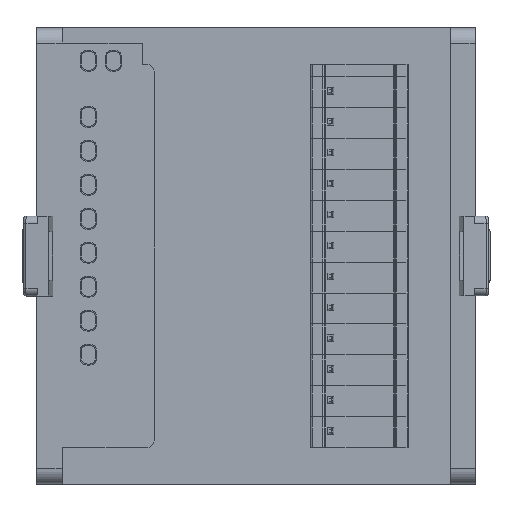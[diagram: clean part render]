
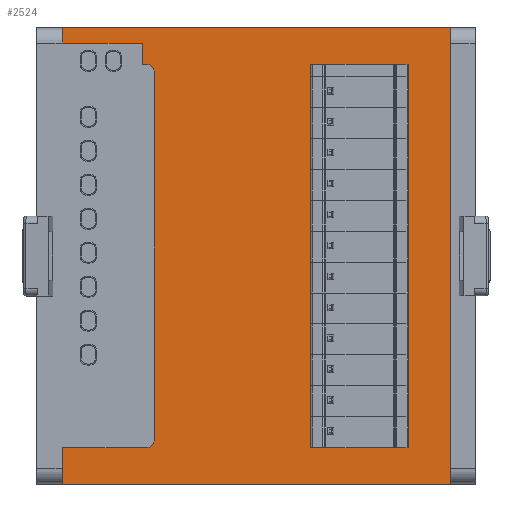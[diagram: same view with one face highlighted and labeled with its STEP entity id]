
A CAD part, front view. The second image highlights one B-rep face of the part: STEP entity #2524.
In plain terms, the highlighted planar face has unit normal (0, -1, 0).
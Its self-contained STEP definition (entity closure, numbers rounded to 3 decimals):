
#275=FACE_BOUND('',#5935,.T.);
#276=FACE_BOUND('',#5936,.T.);
#1042=PLANE('',#30170);
#2524=ADVANCED_FACE('',(#275,#276),#1042,.T.);
#5935=EDGE_LOOP('',(#13807,#13808,#13809,#13810,#13811,#13812,#13813,#13814,
#13815,#13816,#13817,#13818));
#5936=EDGE_LOOP('',(#13819,#13820,#13821,#13822,#13823,#13824,#13825,#13826));
#6907=CIRCLE('',#29942,1.);
#6949=CIRCLE('',#29986,1.);
#6998=CIRCLE('',#30130,1.);
#7000=CIRCLE('',#30133,1.);
#7002=CIRCLE('',#30137,1.);
#7004=CIRCLE('',#30140,1.);
#13807=ORIENTED_EDGE('',*,*,#21223,.T.);
#13808=ORIENTED_EDGE('',*,*,#21593,.F.);
#13809=ORIENTED_EDGE('',*,*,#21610,.F.);
#13810=ORIENTED_EDGE('',*,*,#21560,.T.);
#13811=ORIENTED_EDGE('',*,*,#21609,.F.);
#13812=ORIENTED_EDGE('',*,*,#21552,.T.);
#13813=ORIENTED_EDGE('',*,*,#21617,.F.);
#13814=ORIENTED_EDGE('',*,*,#21596,.F.);
#13815=ORIENTED_EDGE('',*,*,#21606,.F.);
#13816=ORIENTED_EDGE('',*,*,#21590,.T.);
#13817=ORIENTED_EDGE('',*,*,#21323,.T.);
#13818=ORIENTED_EDGE('',*,*,#21589,.F.);
#13819=ORIENTED_EDGE('',*,*,#21570,.T.);
#13820=ORIENTED_EDGE('',*,*,#21585,.T.);
#13821=ORIENTED_EDGE('',*,*,#21576,.T.);
#13822=ORIENTED_EDGE('',*,*,#21583,.F.);
#13823=ORIENTED_EDGE('',*,*,#21580,.T.);
#13824=ORIENTED_EDGE('',*,*,#21587,.F.);
#13825=ORIENTED_EDGE('',*,*,#21566,.T.);
#13826=ORIENTED_EDGE('',*,*,#21573,.F.);
#17589=VERTEX_POINT('',#44934);
#17590=VERTEX_POINT('',#44936);
#17686=VERTEX_POINT('',#45135);
#17687=VERTEX_POINT('',#45137);
#17826=VERTEX_POINT('',#45616);
#17827=VERTEX_POINT('',#45618);
#17832=VERTEX_POINT('',#45634);
#17833=VERTEX_POINT('',#45636);
#17836=VERTEX_POINT('',#45645);
#17838=VERTEX_POINT('',#45648);
#17840=VERTEX_POINT('',#45654);
#17842=VERTEX_POINT('',#45657);
#17844=VERTEX_POINT('',#45666);
#17846=VERTEX_POINT('',#45669);
#17848=VERTEX_POINT('',#45675);
#17850=VERTEX_POINT('',#45678);
#17852=VERTEX_POINT('',#45696);
#17853=VERTEX_POINT('',#45700);
#17854=VERTEX_POINT('',#45704);
#17855=VERTEX_POINT('',#45706);
#21223=EDGE_CURVE('',#17590,#17589,#6907,.T.);
#21323=EDGE_CURVE('',#17686,#17687,#6949,.T.);
#21552=EDGE_CURVE('',#17827,#17826,#24814,.T.);
#21560=EDGE_CURVE('',#17833,#17832,#24821,.T.);
#21566=EDGE_CURVE('',#17838,#17836,#6998,.T.);
#21570=EDGE_CURVE('',#17842,#17840,#7000,.T.);
#21573=EDGE_CURVE('',#17842,#17836,#24830,.T.);
#21576=EDGE_CURVE('',#17846,#17844,#7002,.T.);
#21580=EDGE_CURVE('',#17850,#17848,#7004,.T.);
#21583=EDGE_CURVE('',#17850,#17844,#24836,.T.);
#21585=EDGE_CURVE('',#17840,#17846,#24838,.T.);
#21587=EDGE_CURVE('',#17838,#17848,#24840,.T.);
#21589=EDGE_CURVE('',#17590,#17687,#24842,.T.);
#21590=EDGE_CURVE('',#17852,#17686,#24843,.T.);
#21593=EDGE_CURVE('',#17853,#17589,#24846,.T.);
#21596=EDGE_CURVE('',#17855,#17854,#24849,.T.);
#21606=EDGE_CURVE('',#17852,#17855,#24856,.T.);
#21609=EDGE_CURVE('',#17827,#17832,#24857,.T.);
#21610=EDGE_CURVE('',#17833,#17853,#24858,.T.);
#21617=EDGE_CURVE('',#17854,#17826,#24861,.T.);
#24814=LINE('',#45617,#27706);
#24821=LINE('',#45635,#27713);
#24830=LINE('',#45662,#27722);
#24836=LINE('',#45683,#27728);
#24838=LINE('',#45686,#27730);
#24840=LINE('',#45689,#27732);
#24842=LINE('',#45693,#27734);
#24843=LINE('',#45695,#27735);
#24846=LINE('',#45701,#27738);
#24849=LINE('',#45707,#27741);
#24856=LINE('',#45728,#27748);
#24857=LINE('',#45732,#27749);
#24858=LINE('',#45734,#27750);
#24861=LINE('',#45746,#27753);
#27706=VECTOR('',#36646,1.);
#27713=VECTOR('',#36655,1.);
#27722=VECTOR('',#36678,1.);
#27728=VECTOR('',#36698,1.);
#27730=VECTOR('',#36702,1.);
#27732=VECTOR('',#36706,1.);
#27734=VECTOR('',#36712,1.);
#27735=VECTOR('',#36715,1.);
#27738=VECTOR('',#36720,1.);
#27741=VECTOR('',#36725,1.);
#27748=VECTOR('',#36742,1.);
#27749=VECTOR('',#36749,1.);
#27750=VECTOR('',#36752,1.);
#27753=VECTOR('',#36771,1.);
#29942=AXIS2_PLACEMENT_3D('',#44935,#36042,#36043);
#29986=AXIS2_PLACEMENT_3D('',#45138,#36187,#36188);
#30130=AXIS2_PLACEMENT_3D('',#45647,#36663,#36664);
#30133=AXIS2_PLACEMENT_3D('',#45656,#36671,#36672);
#30137=AXIS2_PLACEMENT_3D('',#45668,#36683,#36684);
#30140=AXIS2_PLACEMENT_3D('',#45677,#36691,#36692);
#30170=AXIS2_PLACEMENT_3D('',#45750,#36778,#36779);
#36042=DIRECTION('',(0.,1.,0.));
#36043=DIRECTION('',(0.,0.,-1.));
#36187=DIRECTION('',(0.,1.,0.));
#36188=DIRECTION('',(0.,0.,-1.));
#36646=DIRECTION('',(-1.,0.,0.));
#36655=DIRECTION('',(1.,0.,0.));
#36663=DIRECTION('',(0.,1.,0.));
#36664=DIRECTION('',(0.,0.,-1.));
#36671=DIRECTION('',(0.,1.,0.));
#36672=DIRECTION('',(0.,0.,-1.));
#36678=DIRECTION('',(0.,0.,-1.));
#36683=DIRECTION('',(0.,1.,0.));
#36684=DIRECTION('',(0.,0.,-1.));
#36691=DIRECTION('',(0.,1.,0.));
#36692=DIRECTION('',(0.,0.,-1.));
#36698=DIRECTION('',(0.,0.,1.));
#36702=DIRECTION('',(1.,0.,0.));
#36706=DIRECTION('',(1.,0.,0.));
#36712=DIRECTION('',(0.,0.,1.));
#36715=DIRECTION('',(1.,0.,0.));
#36720=DIRECTION('',(1.,0.,0.));
#36725=DIRECTION('',(-1.,0.,0.));
#36742=DIRECTION('',(0.,0.,1.));
#36749=DIRECTION('',(0.,0.,-1.));
#36752=DIRECTION('',(0.,0.,1.));
#36771=DIRECTION('',(0.,0.,1.));
#36778=DIRECTION('',(0.,-1.,0.));
#36779=DIRECTION('',(-1.,0.,0.));
#44934=CARTESIAN_POINT('',(-318.109,171.991,152.495));
#44935=CARTESIAN_POINT('',(-318.109,171.991,153.495));
#44936=CARTESIAN_POINT('',(-317.109,171.991,153.495));
#45135=CARTESIAN_POINT('',(-318.109,171.991,199.632));
#45137=CARTESIAN_POINT('',(-317.109,171.991,198.632));
#45138=CARTESIAN_POINT('',(-318.109,171.991,198.632));
#45616=CARTESIAN_POINT('',(-328.388,171.991,204.169));
#45617=CARTESIAN_POINT('',(-326.732,171.991,204.169));
#45618=CARTESIAN_POINT('',(-280.738,171.991,204.169));
#45634=CARTESIAN_POINT('',(-280.738,171.991,147.963));
#45635=CARTESIAN_POINT('',(-326.732,171.991,147.963));
#45636=CARTESIAN_POINT('',(-328.388,171.991,147.963));
#45645=CARTESIAN_POINT('',(-297.859,171.991,153.495));
#45647=CARTESIAN_POINT('',(-296.859,171.991,153.495));
#45648=CARTESIAN_POINT('',(-296.859,171.991,152.495));
#45654=CARTESIAN_POINT('',(-296.859,171.991,199.632));
#45656=CARTESIAN_POINT('',(-296.859,171.991,198.632));
#45657=CARTESIAN_POINT('',(-297.859,171.991,198.632));
#45662=CARTESIAN_POINT('',(-297.859,171.991,199.782));
#45666=CARTESIAN_POINT('',(-285.859,171.991,198.632));
#45668=CARTESIAN_POINT('',(-286.859,171.991,198.632));
#45669=CARTESIAN_POINT('',(-286.859,171.991,199.632));
#45675=CARTESIAN_POINT('',(-286.859,171.991,152.495));
#45677=CARTESIAN_POINT('',(-286.859,171.991,153.495));
#45678=CARTESIAN_POINT('',(-285.859,171.991,153.495));
#45683=CARTESIAN_POINT('',(-285.859,171.991,197.984));
#45686=CARTESIAN_POINT('',(-326.732,171.991,199.632));
#45689=CARTESIAN_POINT('',(-326.732,171.991,152.495));
#45693=CARTESIAN_POINT('',(-317.109,171.991,201.263));
#45695=CARTESIAN_POINT('',(-326.732,171.991,199.632));
#45696=CARTESIAN_POINT('',(-318.609,171.991,199.632));
#45700=CARTESIAN_POINT('',(-328.388,171.991,152.495));
#45701=CARTESIAN_POINT('',(-326.732,171.991,152.495));
#45704=CARTESIAN_POINT('',(-328.388,171.991,202.269));
#45706=CARTESIAN_POINT('',(-318.609,171.991,202.269));
#45707=CARTESIAN_POINT('',(-326.732,171.991,202.269));
#45728=CARTESIAN_POINT('',(-318.609,171.991,183.783));
#45732=CARTESIAN_POINT('',(-280.738,171.991,201.769));
#45734=CARTESIAN_POINT('',(-328.388,171.991,201.769));
#45746=CARTESIAN_POINT('',(-328.388,171.991,201.769));
#45750=CARTESIAN_POINT('',(-326.732,171.991,183.783));
